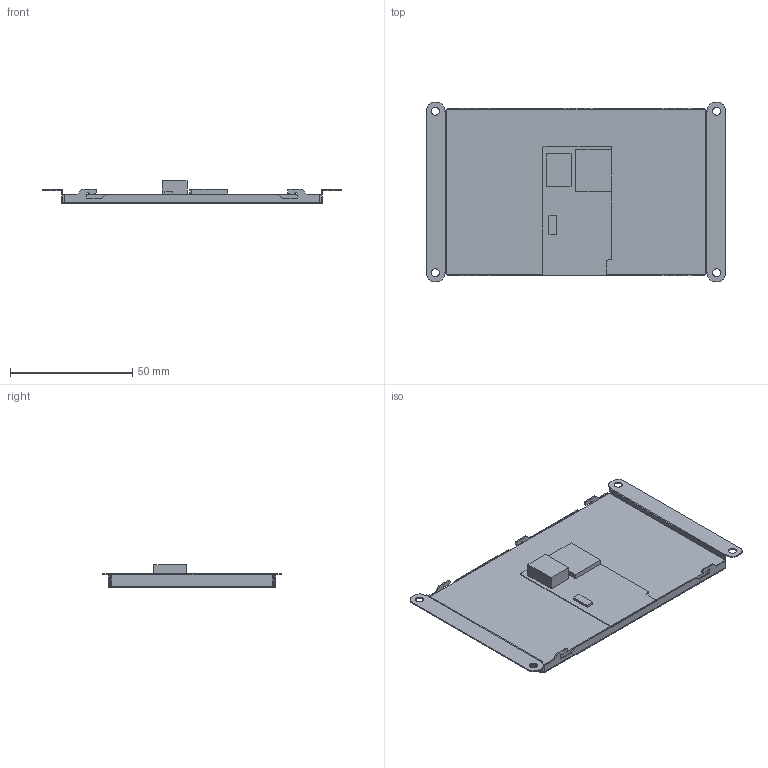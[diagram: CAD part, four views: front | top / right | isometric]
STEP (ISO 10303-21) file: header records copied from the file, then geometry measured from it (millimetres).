
FILE_DESCRIPTION(/* description */ (''),/* implementation_level */ '2;1');
FILE_NAME(/* name */ '3D-VTc043C01.stp',/* time_stamp */ '2026-01-29T10:38:54+08:00',/* author */ (''),/* organization */ (''),/* preprocessor_version */ 'ST-DEVELOPER v16',/* originating_system */ 'SIEMENS PLM Software NX 10.0',/* authorisation */ '');
FILE_SCHEMA (('AP203_CONFIGURATION_CONTROLLED_3D_DESIGN_OF_MECHANICAL_PARTS_AND_ASSEMBLIES_MIM_LF { 1 0 10303 403 2 1 2}'));
Length unit declared in the file: millimetre
Products named in the file (1): 3D-VTc043C01
Bounding box: 122 x 73.2 x 9.3 mm (x, y, z)
Volume: 24894.8 mm3; surface area: 38886.9 mm2
Topology: 12 solids, 12 shells, 149 faces, 383 edges, 258 vertices
Faces by surface type: plane 122, extrusion 15, cylinder 12
Full cylindrical faces by diameter (mm): 3.3 x4
Entity records: 6110 total; most frequent: CARTESIAN_POINT 2372, ORIENTED_EDGE 758, DIRECTION 556, EDGE_CURVE 379, VERTEX_POINT 258, VECTOR 238, LINE 223, EDGE_LOOP 167
